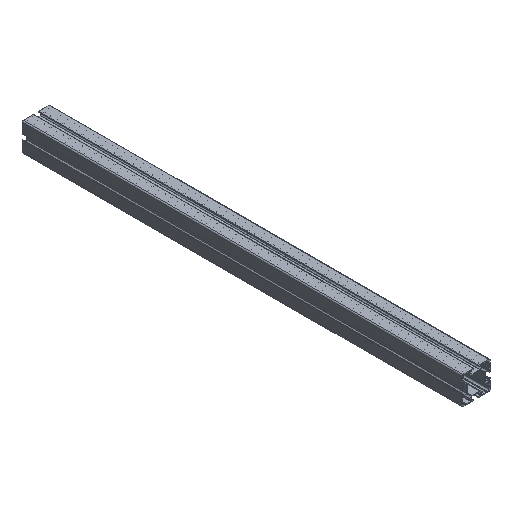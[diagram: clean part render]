
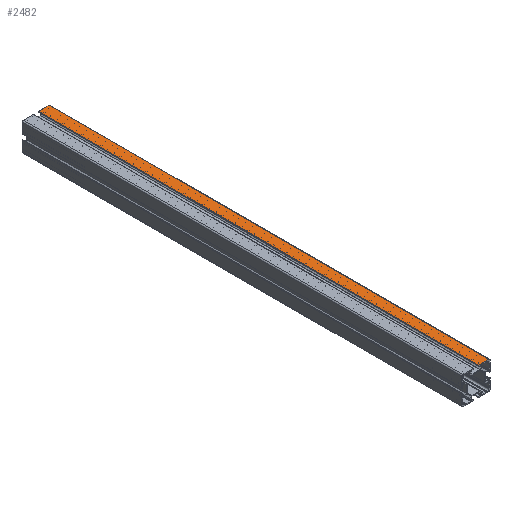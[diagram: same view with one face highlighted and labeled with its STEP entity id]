
A CAD part, isometric view. The second image highlights one B-rep face of the part: STEP entity #2482.
In plain terms, the highlighted planar face has unit normal (0, 0, 1).
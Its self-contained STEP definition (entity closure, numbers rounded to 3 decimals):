
#160 = AXIS2_PLACEMENT_3D ( 'NONE', #3689, #5628, #4204 ) ;
#565 = DIRECTION ( 'NONE',  ( 0., 1., 0. ) ) ;
#797 = CARTESIAN_POINT ( 'NONE',  ( 6., 0., 32. ) ) ;
#916 = CARTESIAN_POINT ( 'NONE',  ( 6., -1000., 32. ) ) ;
#1002 = CARTESIAN_POINT ( 'NONE',  ( 29.5, -1000., 32. ) ) ;
#1003 = FACE_OUTER_BOUND ( 'NONE', #2073, .T. ) ;
#1292 = DIRECTION ( 'NONE',  ( -1., 0., 0. ) ) ;
#1549 = LINE ( 'NONE', #1002, #2190 ) ;
#1650 = EDGE_CURVE ( 'NONE', #6002, #4313, #2008, .T. ) ;
#1700 = CARTESIAN_POINT ( 'NONE',  ( 6., -1000., 32. ) ) ;
#2008 = LINE ( 'NONE', #2877, #4976 ) ;
#2073 = EDGE_LOOP ( 'NONE', ( #5847, #5935, #3661, #5707 ) ) ;
#2175 = VECTOR ( 'NONE', #3339, 1000. ) ;
#2190 = VECTOR ( 'NONE', #565, 1000. ) ;
#2482 = ADVANCED_FACE ( 'NONE', ( #1003 ), #3707, .F. ) ;
#2877 = CARTESIAN_POINT ( 'NONE',  ( 6., -1000., 32. ) ) ;
#3192 = CARTESIAN_POINT ( 'NONE',  ( 29.5, -1000., 32. ) ) ;
#3317 = CARTESIAN_POINT ( 'NONE',  ( 6., 0., 32. ) ) ;
#3329 = DIRECTION ( 'NONE',  ( 0., 1., 0. ) ) ;
#3339 = DIRECTION ( 'NONE',  ( -1., 0., 0. ) ) ;
#3438 = LINE ( 'NONE', #3317, #2175 ) ;
#3649 = VERTEX_POINT ( 'NONE', #4087 ) ;
#3661 = ORIENTED_EDGE ( 'NONE', *, *, #5535, .F. ) ;
#3689 = CARTESIAN_POINT ( 'NONE',  ( 6., -1000., 32. ) ) ;
#3707 = PLANE ( 'NONE',  #160 ) ;
#3902 = VERTEX_POINT ( 'NONE', #3192 ) ;
#4087 = CARTESIAN_POINT ( 'NONE',  ( 29.5, 0., 32. ) ) ;
#4204 = DIRECTION ( 'NONE',  ( 0., 1., 0. ) ) ;
#4313 = VERTEX_POINT ( 'NONE', #797 ) ;
#4595 = EDGE_CURVE ( 'NONE', #3902, #3649, #1549, .T. ) ;
#4976 = VECTOR ( 'NONE', #3329, 1000. ) ;
#5535 = EDGE_CURVE ( 'NONE', #3902, #6002, #5584, .T. ) ;
#5584 = LINE ( 'NONE', #916, #5657 ) ;
#5628 = DIRECTION ( 'NONE',  ( 0., 0., -1. ) ) ;
#5657 = VECTOR ( 'NONE', #1292, 1000. ) ;
#5702 = EDGE_CURVE ( 'NONE', #3649, #4313, #3438, .T. ) ;
#5707 = ORIENTED_EDGE ( 'NONE', *, *, #4595, .T. ) ;
#5847 = ORIENTED_EDGE ( 'NONE', *, *, #5702, .T. ) ;
#5935 = ORIENTED_EDGE ( 'NONE', *, *, #1650, .F. ) ;
#6002 = VERTEX_POINT ( 'NONE', #1700 ) ;
